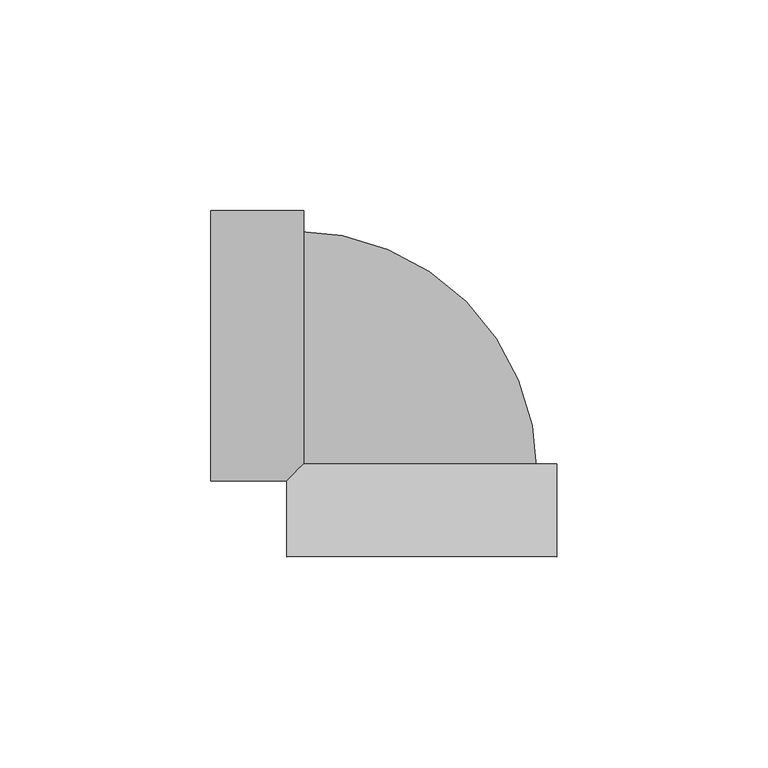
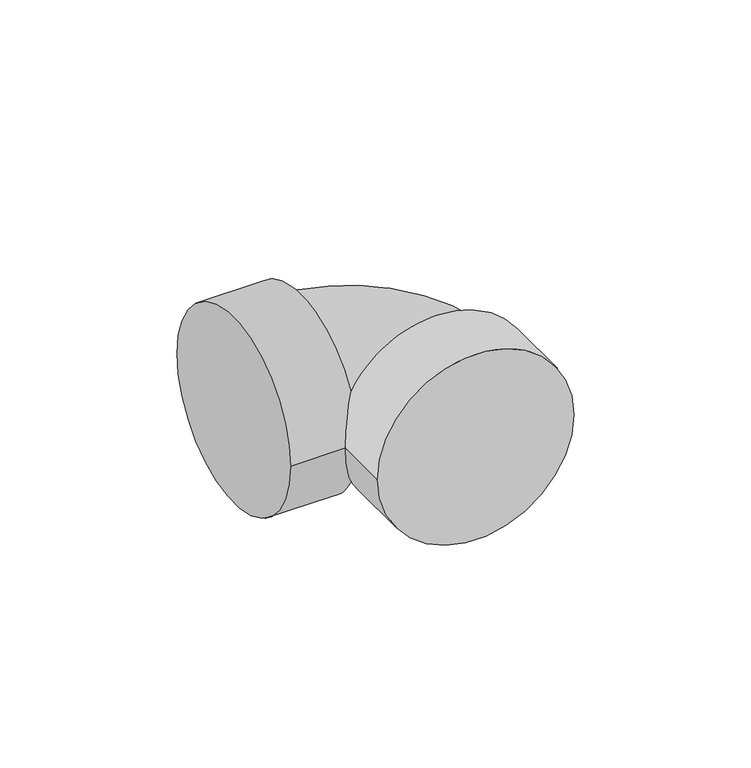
"""IFC4 building model written with IfcOpenShell, lengths in millimetres: pipe fitting geometry, 01011001 : Joelho a 90º."""

from ifc_helpers import new_model, si_unit, point, frame, origin, place, context, project, spatial, circle_curve, ellipse_curve, trimmed, source, transform, mapped, element, save
from ifc_brep_helpers import plane_surface, cylinder_surface, revolved_surface, advanced_brep


def pipe_fitting_f9501f6e(model_context):
    return source(origin(), model_context, "Body", "AdvancedBrep", [
        advanced_brep(
        [(-32.0, -50.0, 0.0), (32.0, -50.0, 0.0), (-28.0, -28.0, -15.4919334), (-28.0, -28.0, 15.4919334), (32.0, -28.0, 0.0), (-32.0, -32.0, 0.0), (-50.0, 32.0, 0.0), (-50.0, -32.0, 0.0), (-28.0, 32.0, 0.0)],
        [
            (0, 1, circle_curve(frame((0.0, -50.0, 0.0), z_axis=(0.0, -1.0, 0.0), x_axis=(1.0, 0.0, 0.0)), 32.0)),
            (1, 0, circle_curve(frame((0.0, -50.0, 0.0), z_axis=(0.0, -1.0, 0.0), x_axis=(1.0, 0.0, 0.0)), 32.0)),
            (2, 3),
            (3, 4, circle_curve(frame((0.0, -28.0, 0.0), z_axis=(0.0, 1.0, 0.0), x_axis=(1.0, 0.0, 0.0)), 32.0)),
            (4, 2, circle_curve(frame((0.0, -28.0, 0.0), z_axis=(0.0, 1.0, 0.0), x_axis=(1.0, 0.0, 0.0)), 32.0)),
            (1, 4),
            (3, 5, ellipse_curve(frame((0.0, 0.0, 0.0), z_axis=(0.7071067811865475, -0.7071067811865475, 0.0), x_axis=(-0.7071067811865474, -0.7071067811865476, 0.0)), 45.254834, 32.0)),
            (5, 0),
            (5, 2, ellipse_curve(frame((0.0, 0.0, 0.0), z_axis=(0.7071067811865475, -0.7071067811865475, 0.0), x_axis=(-0.7071067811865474, -0.7071067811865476, 0.0)), 45.254834, 32.0)),
            (6, 7, circle_curve(frame((-50.0, 0.0, 0.0), z_axis=(-1.0, 0.0, 0.0), x_axis=(0.0, -1.0, 0.0)), 32.0)),
            (7, 6, circle_curve(frame((-50.0, 0.0, 0.0), z_axis=(-1.0, 0.0, 0.0), x_axis=(0.0, -1.0, 0.0)), 32.0)),
            (8, 3, circle_curve(frame((-28.0, 0.0, 0.0), z_axis=(1.0, 0.0, 0.0), x_axis=(0.0, -1.0, 0.0)), 32.0)),
            (2, 8, circle_curve(frame((-28.0, 0.0, 0.0), z_axis=(1.0, 0.0, 0.0), x_axis=(0.0, -1.0, 0.0)), 32.0)),
            (7, 5),
            (8, 6),
        ],
        [
            plane_surface(frame((0.0, -50.0, 0.0), z_axis=(0.0, -1.0, 0.0), x_axis=(0.0, 0.0, 1.0))),
            plane_surface(frame((0.0, -28.0, 0.0), z_axis=(0.0, 1.0, 0.0), x_axis=(0.0, 0.0, 1.0))),
            cylinder_surface(frame((0.0, -50.0, 0.0), z_axis=(0.0, -1.0, 0.0), x_axis=(1.0, 0.0, 0.0)), 32.0),
            plane_surface(frame((-50.0, 0.0, 0.0), z_axis=(-1.0, 0.0, 0.0), x_axis=(0.0, 0.0, 1.0))),
            plane_surface(frame((-28.0, 0.0, 0.0), z_axis=(1.0, 0.0, 0.0), x_axis=(0.0, 0.0, 1.0))),
            cylinder_surface(frame((-50.0, 0.0, 0.0), z_axis=(-1.0, 0.0, 0.0), x_axis=(0.0, -1.0, 0.0)), 32.0),
        ],
        [
            (0, [[1, 2]]),
            (1, [[3, 4, 5]]),
            (2, [[6, -4, 7, 8, -2]]),
            (2, [[-8, 9, -5, -6, -1]]),
            (3, [[10, 11]]),
            (4, [[12, -3, 13]]),
            (5, [[14, -7, -12, 15, -11]]),
            (5, [[-15, -13, -9, -14, -10]]),
        ],
    ),
        advanced_brep(
        [(-27.2, -30.0, 0.0), (27.2, -30.0, 0.0), (-30.0, -27.2, 0.0), (-30.0, 27.2, 0.0)],
        [
            (0, 1, circle_curve(frame((0.0, -30.0, 0.0), z_axis=(0.0, -1.0, 0.0), x_axis=(1.0, 0.0, 0.0)), 27.2)),
            (1, 0, circle_curve(frame((0.0, -30.0, 0.0), z_axis=(0.0, -1.0, 0.0), x_axis=(1.0, 0.0, 0.0)), 27.2)),
            (2, 3, circle_curve(frame((-30.0, 0.0, 0.0), z_axis=(-1.0, 0.0, 0.0), x_axis=(0.0, 1.0, 0.0)), 27.2)),
            (3, 2, circle_curve(frame((-30.0, 0.0, 0.0), z_axis=(-1.0, 0.0, 0.0), x_axis=(0.0, 1.0, 0.0)), 27.2)),
            (2, 0, circle_curve(frame((-30.0, -30.0, 0.0), z_axis=(0.0, 0.0, -1.0), x_axis=(1.0, 0.0, 0.0)), 2.8)),
            (1, 3, circle_curve(frame((-30.0, -30.0, 0.0), z_axis=(0.0, 0.0, 1.0), x_axis=(1.0, 0.0, 0.0)), 57.2)),
        ],
        [
            plane_surface(frame((0.0, -30.0, 0.0), z_axis=(0.0, -1.0, 0.0), x_axis=(0.0, 0.0, 1.0))),
            plane_surface(frame((-30.0, 0.0, 0.0), z_axis=(-1.0, 0.0, 0.0), x_axis=(0.0, 0.0, 1.0))),
            revolved_surface(trimmed(ellipse_curve(frame((0.0, -30.0, 0.0), z_axis=(0.0, 1.0, 0.0), x_axis=(1.0, 0.0, 0.0)), 27.2, 27.2), [point((-27.2, -30.0, 0.0))], [point((27.2, -30.0, 0.0))], True, "CARTESIAN"), (-30.0, -30.0, 0.0), (0.0, 0.0, -1.0)),
            revolved_surface(trimmed(ellipse_curve(frame((0.0, -30.0, 0.0), z_axis=(0.0, 1.0, 0.0), x_axis=(1.0, 0.0, 0.0)), 27.2, 27.2), [point((27.2, -30.0, 0.0))], [point((-27.2, -30.0, 0.0))], True, "CARTESIAN"), (-30.0, -30.0, 0.0), (0.0, 0.0, -1.0)),
        ],
        [
            (0, [[1, 2]]),
            (1, [[3, 4]]),
            (2, [[-3, 5, -2, 6]]),
            (3, [[-4, -6, -1, -5]]),
        ],
    ),
    ])


if __name__ == "__main__":
    model = new_model("IFC4")
    model_context = context("Model", 3, world=origin())
    ifc_project = project(units=[si_unit("LENGTHUNIT", "METRE", prefix="MILLI")], contexts=[model_context])
    site = spatial("IfcSite", under=ifc_project)
    building = spatial("IfcBuilding", under=site)
    placement = place(None, origin())
    pipe_fitting_shape = pipe_fitting_f9501f6e(model_context)
    element("IfcPipeFitting", 1, ObjectType="01011001 : Joelho a 90º", at=placement, inside=building, context=model_context, shape_type="MappedRepresentation", body=[
        mapped(pipe_fitting_shape, transform((0.0, 0.0, 0.0), x_axis=(1.0, 0.0, 0.0), y_axis=(0.0, 1.0, 0.0), z_axis=(0.0, 0.0, 1.0))),
    ])
    save(model, "model.ifc")
